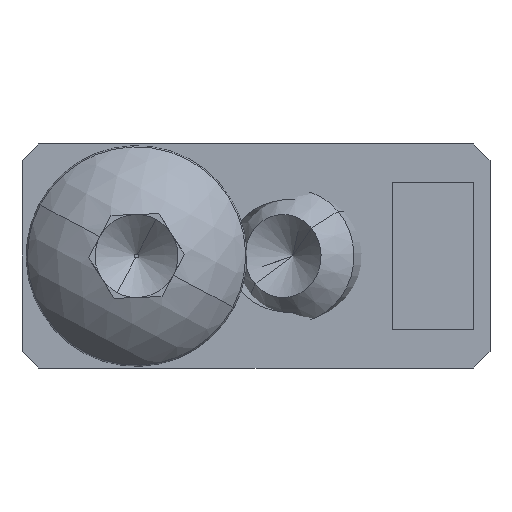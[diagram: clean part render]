
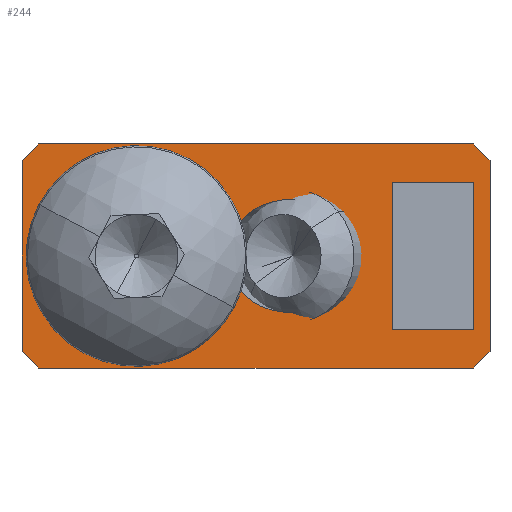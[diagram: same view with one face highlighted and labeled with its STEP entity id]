
A CAD part, front view. The second image highlights one B-rep face of the part: STEP entity #244.
In plain terms, the highlighted planar face has unit normal (0, -1, 0).
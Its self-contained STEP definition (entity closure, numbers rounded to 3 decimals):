
#20 = EDGE_CURVE ( 'NONE', #997, #2405, #1353, .T. ) ;
#24 = LINE ( 'NONE', #1961, #804 ) ;
#56 = ORIENTED_EDGE ( 'NONE', *, *, #1573, .F. ) ;
#72 = CARTESIAN_POINT ( 'NONE',  ( 13.1, 0., 6.75 ) ) ;
#113 = CARTESIAN_POINT ( 'NONE',  ( -3.075, 0., 0. ) ) ;
#127 = CARTESIAN_POINT ( 'NONE',  ( 5.706, 0., -6.8 ) ) ;
#135 = CARTESIAN_POINT ( 'NONE',  ( -13.1, 0., 6.75 ) ) ;
#141 = CARTESIAN_POINT ( 'NONE',  ( 14.1, 0., 5.75 ) ) ;
#176 = AXIS2_PLACEMENT_3D ( 'NONE', #1504, #2285, #711 ) ;
#216 = EDGE_LOOP ( 'NONE', ( #938, #2470, #2292, #1609 ) ) ;
#225 =( BOUNDED_CURVE ( )  B_SPLINE_CURVE ( 3, ( #2263, #2070, #127, #1832 ),
 .UNSPECIFIED., .F., .T. ) 
 B_SPLINE_CURVE_WITH_KNOTS ( ( 4, 4 ),
 ( 3.142, 6.283 ),
 .UNSPECIFIED. ) 
 CURVE ( )  GEOMETRIC_REPRESENTATION_ITEM ( )  RATIONAL_B_SPLINE_CURVE ( ( 1., 0.333, 0.333, 1. ) ) 
 REPRESENTATION_ITEM ( '' )  );
#231 = FACE_OUTER_BOUND ( 'NONE', #795, .T. ) ;
#244 = ADVANCED_FACE ( 'NONE', ( #1587, #618, #1392, #231 ), #1595, .T. ) ;
#249 = ORIENTED_EDGE ( 'NONE', *, *, #2362, .F. ) ;
#286 = CARTESIAN_POINT ( 'NONE',  ( -1.717, 0., 0. ) ) ;
#298 = DIRECTION ( 'NONE',  ( 0., 0., -1. ) ) ;
#311 = CARTESIAN_POINT ( 'NONE',  ( 5.706, 0., 0. ) ) ;
#358 = LINE ( 'NONE', #536, #2478 ) ;
#365 = EDGE_CURVE ( 'NONE', #1055, #2390, #225, .T. ) ;
#379 = CARTESIAN_POINT ( 'NONE',  ( 8.2, 0., 4.45 ) ) ;
#380 = ORIENTED_EDGE ( 'NONE', *, *, #1226, .T. ) ;
#403 = VECTOR ( 'NONE', #1103, 1000. ) ;
#425 = VECTOR ( 'NONE', #1121, 1000. ) ;
#426 = DIRECTION ( 'NONE',  ( 0., 0., -1. ) ) ;
#451 = CARTESIAN_POINT ( 'NONE',  ( -1.717, 0., 0. ) ) ;
#473 = VERTEX_POINT ( 'NONE', #1739 ) ;
#481 = VERTEX_POINT ( 'NONE', #2466 ) ;
#520 = DIRECTION ( 'NONE',  ( 1., 0., 0. ) ) ;
#536 = CARTESIAN_POINT ( 'NONE',  ( 9.925, 0., -9.925 ) ) ;
#576 = ORIENTED_EDGE ( 'NONE', *, *, #958, .T. ) ;
#618 = FACE_BOUND ( 'NONE', #1248, .T. ) ;
#664 = LINE ( 'NONE', #2233, #1282 ) ;
#702 = CARTESIAN_POINT ( 'NONE',  ( -14.1, 0., 6.75 ) ) ;
#711 = DIRECTION ( 'NONE',  ( -1., 0., 0. ) ) ;
#728 = VECTOR ( 'NONE', #1920, 1000. ) ;
#771 = ORIENTED_EDGE ( 'NONE', *, *, #1309, .T. ) ;
#795 = EDGE_LOOP ( 'NONE', ( #1367, #2121, #56, #2084, #2022, #771, #2459, #380 ) ) ;
#804 = VECTOR ( 'NONE', #2332, 1000. ) ;
#810 = EDGE_CURVE ( 'NONE', #2205, #1133, #1344, .T. ) ;
#813 = LINE ( 'NONE', #1570, #2349 ) ;
#816 = DIRECTION ( 'NONE',  ( -1., 0., 0. ) ) ;
#839 = CARTESIAN_POINT ( 'NONE',  ( -13.1, 0., -6.75 ) ) ;
#841 = DIRECTION ( 'NONE',  ( 0., 1., 0. ) ) ;
#861 = CARTESIAN_POINT ( 'NONE',  ( -14.1, 0., -5.75 ) ) ;
#870 = VECTOR ( 'NONE', #816, 1000. ) ;
#900 = VERTEX_POINT ( 'NONE', #2378 ) ;
#919 = LINE ( 'NONE', #1696, #1156 ) ;
#934 = CARTESIAN_POINT ( 'NONE',  ( 8.2, 0., 4.45 ) ) ;
#938 = ORIENTED_EDGE ( 'NONE', *, *, #1062, .F. ) ;
#947 = CARTESIAN_POINT ( 'NONE',  ( 13.1, 0., 4.45 ) ) ;
#958 = EDGE_CURVE ( 'NONE', #1778, #2350, #1732, .T. ) ;
#997 = VERTEX_POINT ( 'NONE', #861 ) ;
#1005 = CARTESIAN_POINT ( 'NONE',  ( 0., 0., 0. ) ) ;
#1012 = EDGE_CURVE ( 'NONE', #1133, #481, #2409, .T. ) ;
#1030 = CARTESIAN_POINT ( 'NONE',  ( -7.2, 0., 0. ) ) ;
#1055 = VERTEX_POINT ( 'NONE', #451 ) ;
#1062 = EDGE_CURVE ( 'NONE', #900, #2205, #664, .T. ) ;
#1103 = DIRECTION ( 'NONE',  ( 0., 0., 1. ) ) ;
#1111 = EDGE_CURVE ( 'NONE', #1146, #2171, #919, .T. ) ;
#1121 = DIRECTION ( 'NONE',  ( 0.707, 0., -0.707 ) ) ;
#1125 = CARTESIAN_POINT ( 'NONE',  ( 14.1, 0., -5.75 ) ) ;
#1133 = VERTEX_POINT ( 'NONE', #934 ) ;
#1146 = VERTEX_POINT ( 'NONE', #135 ) ;
#1156 = VECTOR ( 'NONE', #520, 1000. ) ;
#1159 = CARTESIAN_POINT ( 'NONE',  ( 14.1, 0., 6.75 ) ) ;
#1208 = VERTEX_POINT ( 'NONE', #1125 ) ;
#1223 = CARTESIAN_POINT ( 'NONE',  ( -14.1, 0., 5.75 ) ) ;
#1226 = EDGE_CURVE ( 'NONE', #1146, #2528, #1310, .T. ) ;
#1248 = EDGE_LOOP ( 'NONE', ( #2526, #249 ) ) ;
#1280 = CIRCLE ( 'NONE', #176, 4.125 ) ;
#1282 = VECTOR ( 'NONE', #2206, 1000. ) ;
#1309 = EDGE_CURVE ( 'NONE', #1783, #2171, #24, .T. ) ;
#1310 = LINE ( 'NONE', #2473, #728 ) ;
#1312 = DIRECTION ( 'NONE',  ( 0.707, 0., 0.707 ) ) ;
#1322 = LINE ( 'NONE', #702, #403 ) ;
#1344 = LINE ( 'NONE', #379, #870 ) ;
#1347 = EDGE_CURVE ( 'NONE', #1783, #1208, #1752, .T. ) ;
#1353 = LINE ( 'NONE', #1517, #425 ) ;
#1367 = ORIENTED_EDGE ( 'NONE', *, *, #1614, .F. ) ;
#1392 = FACE_BOUND ( 'NONE', #2456, .T. ) ;
#1433 = ORIENTED_EDGE ( 'NONE', *, *, #2256, .T. ) ;
#1471 = DIRECTION ( 'NONE',  ( 0., -1., 0. ) ) ;
#1478 = CARTESIAN_POINT ( 'NONE',  ( -14.1, 0., -6.75 ) ) ;
#1504 = CARTESIAN_POINT ( 'NONE',  ( -7.2, 0., 0. ) ) ;
#1517 = CARTESIAN_POINT ( 'NONE',  ( -9.925, 0., -9.925 ) ) ;
#1521 = AXIS2_PLACEMENT_3D ( 'NONE', #1030, #841, #1626 ) ;
#1570 = CARTESIAN_POINT ( 'NONE',  ( 8.2, 0., -4.45 ) ) ;
#1573 = EDGE_CURVE ( 'NONE', #473, #2405, #1711, .T. ) ;
#1587 = FACE_BOUND ( 'NONE', #216, .T. ) ;
#1595 = PLANE ( 'NONE',  #2237 ) ;
#1609 = ORIENTED_EDGE ( 'NONE', *, *, #810, .F. ) ;
#1614 = EDGE_CURVE ( 'NONE', #997, #2528, #1322, .T. ) ;
#1626 = DIRECTION ( 'NONE',  ( -1., 0., 0. ) ) ;
#1683 = EDGE_CURVE ( 'NONE', #473, #1208, #358, .T. ) ;
#1685 = CARTESIAN_POINT ( 'NONE',  ( 5.706, 0., 6.8 ) ) ;
#1692 = VECTOR ( 'NONE', #2246, 1000. ) ;
#1696 = CARTESIAN_POINT ( 'NONE',  ( -14.1, 0., 6.75 ) ) ;
#1711 = LINE ( 'NONE', #1478, #1866 ) ;
#1732 = CIRCLE ( 'NONE', #1521, 4.125 ) ;
#1739 = CARTESIAN_POINT ( 'NONE',  ( 13.1, 0., -6.75 ) ) ;
#1752 = LINE ( 'NONE', #1159, #2278 ) ;
#1778 = VERTEX_POINT ( 'NONE', #2074 ) ;
#1783 = VERTEX_POINT ( 'NONE', #141 ) ;
#1832 = CARTESIAN_POINT ( 'NONE',  ( 5.706, 0., 0. ) ) ;
#1866 = VECTOR ( 'NONE', #1883, 1000. ) ;
#1883 = DIRECTION ( 'NONE',  ( -1., 0., 0. ) ) ;
#1920 = DIRECTION ( 'NONE',  ( -0.707, 0., -0.707 ) ) ;
#1961 = CARTESIAN_POINT ( 'NONE',  ( 9.925, 0., 9.925 ) ) ;
#2022 = ORIENTED_EDGE ( 'NONE', *, *, #1347, .F. ) ;
#2067 = CARTESIAN_POINT ( 'NONE',  ( 5.706, 0., 0. ) ) ;
#2070 = CARTESIAN_POINT ( 'NONE',  ( -1.717, 0., -6.8 ) ) ;
#2074 = CARTESIAN_POINT ( 'NONE',  ( -11.325, 0., 0. ) ) ;
#2084 = ORIENTED_EDGE ( 'NONE', *, *, #1683, .T. ) ;
#2121 = ORIENTED_EDGE ( 'NONE', *, *, #20, .T. ) ;
#2165 =( BOUNDED_CURVE ( )  B_SPLINE_CURVE ( 3, ( #2067, #1685, #2462, #286 ),
 .UNSPECIFIED., .F., .T. ) 
 B_SPLINE_CURVE_WITH_KNOTS ( ( 4, 4 ),
 ( 0., 3.142 ),
 .UNSPECIFIED. ) 
 CURVE ( )  GEOMETRIC_REPRESENTATION_ITEM ( )  RATIONAL_B_SPLINE_CURVE ( ( 1., 0.333, 0.333, 1. ) ) 
 REPRESENTATION_ITEM ( '' )  );
#2171 = VERTEX_POINT ( 'NONE', #72 ) ;
#2205 = VERTEX_POINT ( 'NONE', #947 ) ;
#2206 = DIRECTION ( 'NONE',  ( 0., 0., 1. ) ) ;
#2233 = CARTESIAN_POINT ( 'NONE',  ( 13.1, 0., 4.45 ) ) ;
#2237 = AXIS2_PLACEMENT_3D ( 'NONE', #1005, #1471, #298 ) ;
#2246 = DIRECTION ( 'NONE',  ( 0., 0., -1. ) ) ;
#2256 = EDGE_CURVE ( 'NONE', #2350, #1778, #1280, .T. ) ;
#2263 = CARTESIAN_POINT ( 'NONE',  ( -1.717, 0., 0. ) ) ;
#2278 = VECTOR ( 'NONE', #426, 1000. ) ;
#2285 = DIRECTION ( 'NONE',  ( 0., 1., 0. ) ) ;
#2292 = ORIENTED_EDGE ( 'NONE', *, *, #1012, .F. ) ;
#2332 = DIRECTION ( 'NONE',  ( -0.707, 0., 0.707 ) ) ;
#2338 = DIRECTION ( 'NONE',  ( 1., 0., 0. ) ) ;
#2349 = VECTOR ( 'NONE', #2338, 1000. ) ;
#2350 = VERTEX_POINT ( 'NONE', #113 ) ;
#2362 = EDGE_CURVE ( 'NONE', #2390, #1055, #2165, .T. ) ;
#2378 = CARTESIAN_POINT ( 'NONE',  ( 13.1, 0., -4.45 ) ) ;
#2390 = VERTEX_POINT ( 'NONE', #311 ) ;
#2405 = VERTEX_POINT ( 'NONE', #839 ) ;
#2409 = LINE ( 'NONE', #2451, #1692 ) ;
#2451 = CARTESIAN_POINT ( 'NONE',  ( 8.2, 0., 4.45 ) ) ;
#2456 = EDGE_LOOP ( 'NONE', ( #576, #1433 ) ) ;
#2459 = ORIENTED_EDGE ( 'NONE', *, *, #1111, .F. ) ;
#2462 = CARTESIAN_POINT ( 'NONE',  ( -1.717, 0., 6.8 ) ) ;
#2466 = CARTESIAN_POINT ( 'NONE',  ( 8.2, 0., -4.45 ) ) ;
#2470 = ORIENTED_EDGE ( 'NONE', *, *, #2513, .F. ) ;
#2473 = CARTESIAN_POINT ( 'NONE',  ( -9.925, 0., 9.925 ) ) ;
#2478 = VECTOR ( 'NONE', #1312, 1000. ) ;
#2513 = EDGE_CURVE ( 'NONE', #481, #900, #813, .T. ) ;
#2526 = ORIENTED_EDGE ( 'NONE', *, *, #365, .F. ) ;
#2528 = VERTEX_POINT ( 'NONE', #1223 ) ;
